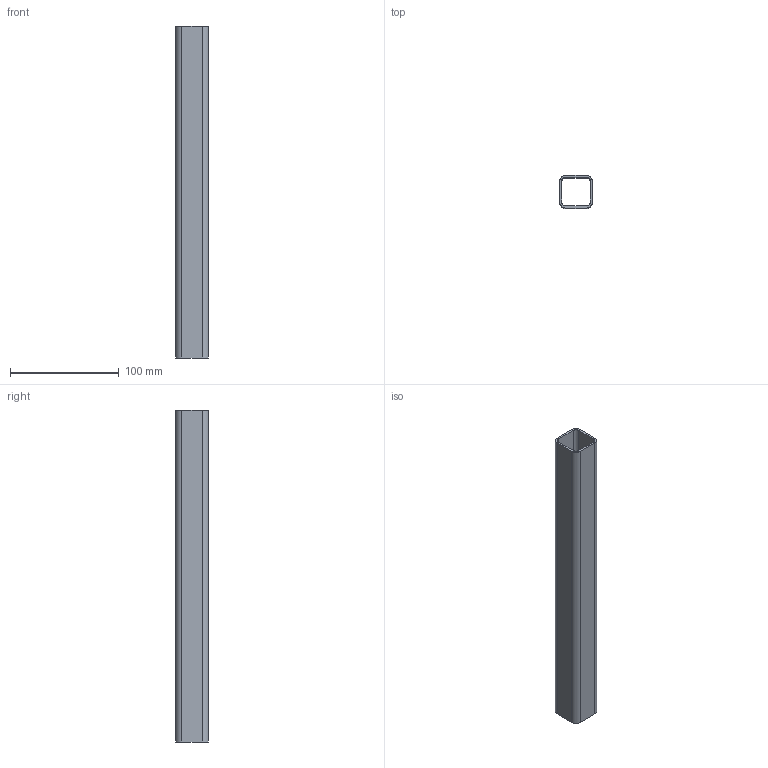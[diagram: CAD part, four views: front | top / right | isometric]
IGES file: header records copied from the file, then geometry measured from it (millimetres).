
Start section: SolidWorks IGES file using analytic representation for surfaces
Global section: file name: O:\Database\Dumb Solids - Coupling & Gussets\DRP-002-0001-11.IGS; native system: SolidWorks 2011; preprocessor: SolidWorks 2011; author: mbush2; date: 111205.153533; units: inch
Bounding box: 30.02 x 30.02 x 304.8 mm (x, y, z)
Surface area: 64226.3 mm2 (no closed solid volume)
Topology: 0 solids, 0 shells, 18 faces, 208 edges, 208 vertices
Faces by surface type: bspline 10, revolution 8
